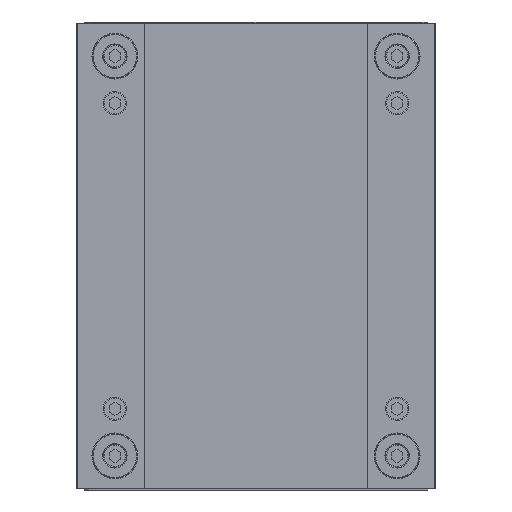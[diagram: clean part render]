
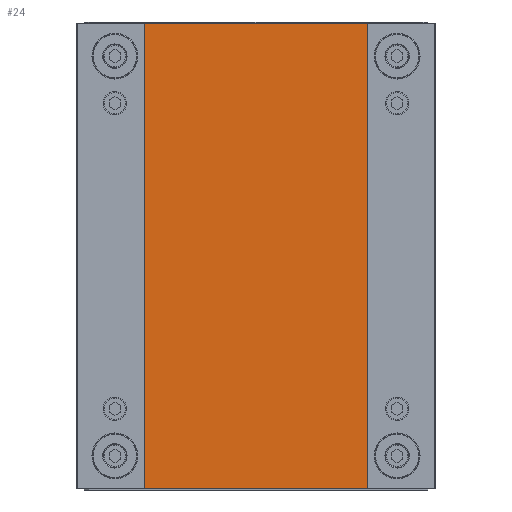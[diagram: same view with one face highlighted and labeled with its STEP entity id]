
A CAD part, front view. The second image highlights one B-rep face of the part: STEP entity #24.
In plain terms, the highlighted planar face has unit normal (0, -1, 0).
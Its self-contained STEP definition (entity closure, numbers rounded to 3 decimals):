
#24 = ADVANCED_FACE ( 'NONE', ( #246 ), #247, .F. ) ;
#246 = FACE_OUTER_BOUND ( 'NONE', #8059, .T. ) ;
#247 = PLANE ( 'NONE',  #248 ) ;
#248 = AXIS2_PLACEMENT_3D ( 'NONE', #249, #250, #251 ) ;
#249 = CARTESIAN_POINT ( 'NONE',  ( 99.5, -20., 198. ) ) ;
#250 = DIRECTION ( 'NONE',  ( 0., 1., 0. ) ) ;
#251 = DIRECTION ( 'NONE',  ( -1., 0., 0. ) ) ;
#2642 = CARTESIAN_POINT ( 'NONE',  ( -99.5, -20., -198. ) ) ;
#3032 = LINE ( 'NONE', #3033, #3034 ) ;
#3033 = CARTESIAN_POINT ( 'NONE',  ( -99.5, -20., 198. ) ) ;
#3034 = VECTOR ( 'NONE', #3035, 1000. ) ;
#3035 = DIRECTION ( 'NONE',  ( 0., 0., -1. ) ) ;
#3221 = CARTESIAN_POINT ( 'NONE',  ( -99.5, -20., 198. ) ) ;
#4404 = CARTESIAN_POINT ( 'NONE',  ( 99.5, -20., -198. ) ) ;
#5125 = LINE ( 'NONE', #5126, #5127 ) ;
#5126 = CARTESIAN_POINT ( 'NONE',  ( 99.5, -20., -198. ) ) ;
#5127 = VECTOR ( 'NONE', #5128, 1000. ) ;
#5128 = DIRECTION ( 'NONE',  ( 1., 0., 0. ) ) ;
#5179 = VERTEX_POINT ( 'NONE', #2642 ) ;
#5796 = LINE ( 'NONE', #5797, #5798 ) ;
#5797 = CARTESIAN_POINT ( 'NONE',  ( 99.5, -20., 198. ) ) ;
#5798 = VECTOR ( 'NONE', #5799, 1000. ) ;
#5799 = DIRECTION ( 'NONE',  ( 1., 0., 0. ) ) ;
#5963 = EDGE_CURVE ( 'NONE', #6223, #5179, #3032, .T. ) ;
#6223 = VERTEX_POINT ( 'NONE', #3221 ) ;
#6729 = CARTESIAN_POINT ( 'NONE',  ( 99.5, -20., 198. ) ) ;
#7175 = LINE ( 'NONE', #7176, #7177 ) ;
#7176 = CARTESIAN_POINT ( 'NONE',  ( 99.5, -20., 198. ) ) ;
#7177 = VECTOR ( 'NONE', #7178, 1000. ) ;
#7178 = DIRECTION ( 'NONE',  ( 0., 0., -1. ) ) ;
#7893 = VERTEX_POINT ( 'NONE', #4404 ) ;
#8059 = EDGE_LOOP ( 'NONE', ( #8557, #9453, #9979, #10223 ) ) ;
#8557 = ORIENTED_EDGE ( 'NONE', *, *, #8910, .T. ) ;
#8910 = EDGE_CURVE ( 'NONE', #5179, #7893, #5125, .T. ) ;
#9453 = ORIENTED_EDGE ( 'NONE', *, *, #10809, .F. ) ;
#9979 = ORIENTED_EDGE ( 'NONE', *, *, #10108, .F. ) ;
#10108 = EDGE_CURVE ( 'NONE', #6223, #10560, #5796, .T. ) ;
#10223 = ORIENTED_EDGE ( 'NONE', *, *, #5963, .T. ) ;
#10560 = VERTEX_POINT ( 'NONE', #6729 ) ;
#10809 = EDGE_CURVE ( 'NONE', #10560, #7893, #7175, .T. ) ;
